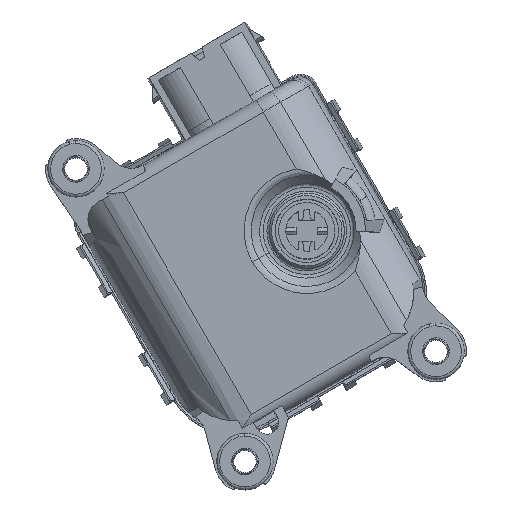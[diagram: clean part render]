
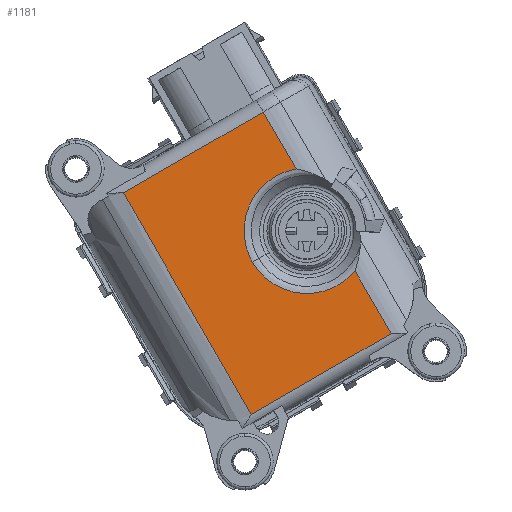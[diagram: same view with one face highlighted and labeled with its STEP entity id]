
A CAD part, front view. The second image highlights one B-rep face of the part: STEP entity #1181.
In plain terms, the highlighted planar face has unit normal (0, -1, 0.013) as drawn and (0, -1, 0) by its records, which use the part's own axes.
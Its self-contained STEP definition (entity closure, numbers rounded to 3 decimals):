
#1113=AXIS2_PLACEMENT_3D('Plane Axis2P3D',#1110,#1111,#1112) ;
#88=CARTESIAN_POINT('Vertex',(6.38,-0.5,-62.55)) ;
#110=CARTESIAN_POINT('Vertex',(40.812,-0.5,-62.55)) ;
#113=CARTESIAN_POINT('Line Origine',(6.361,-0.5,-62.55)) ;
#1046=CARTESIAN_POINT('Control Point',(40.812,-0.5,-8.05)) ;
#1047=CARTESIAN_POINT('Control Point',(40.812,-0.5,-18.95)) ;
#1048=CARTESIAN_POINT('Control Point',(40.812,-0.5,-29.85)) ;
#1049=CARTESIAN_POINT('Control Point',(40.812,-0.5,-40.75)) ;
#1050=CARTESIAN_POINT('Control Point',(40.812,-0.5,-51.65)) ;
#1051=CARTESIAN_POINT('Control Point',(40.812,-0.5,-62.55)) ;
#1052=CARTESIAN_POINT('Vertex',(40.812,-0.5,-8.05)) ;
#1110=CARTESIAN_POINT('Axis2P3D Location',(46.5,-0.5,-59.3)) ;
#1115=CARTESIAN_POINT('Line Origine',(23.596,-0.5,-8.05)) ;
#1119=CARTESIAN_POINT('Vertex',(6.38,-0.5,-8.05)) ;
#1122=CARTESIAN_POINT('Line Origine',(6.38,-0.5,-15.753)) ;
#1126=CARTESIAN_POINT('Vertex',(6.38,-0.5,-23.456)) ;
#1130=CARTESIAN_POINT('Control Point',(24.368,-0.5,-36.)) ;
#1131=CARTESIAN_POINT('Control Point',(24.367,-0.5,-34.567)) ;
#1132=CARTESIAN_POINT('Control Point',(24.176,-0.5,-33.134)) ;
#1133=CARTESIAN_POINT('Control Point',(23.792,-0.5,-31.735)) ;
#1134=CARTESIAN_POINT('Control Point',(22.659,-0.5,-29.075)) ;
#1135=CARTESIAN_POINT('Control Point',(20.864,-0.5,-26.807)) ;
#1136=CARTESIAN_POINT('Control Point',(19.819,-0.5,-25.801)) ;
#1137=CARTESIAN_POINT('Control Point',(17.487,-0.5,-24.093)) ;
#1138=CARTESIAN_POINT('Control Point',(14.787,-0.5,-23.059)) ;
#1139=CARTESIAN_POINT('Control Point',(13.376,-0.5,-22.727)) ;
#1140=CARTESIAN_POINT('Control Point',(11.089,-0.5,-22.506)) ;
#1141=CARTESIAN_POINT('Control Point',(8.82,-0.5,-22.771)) ;
#1142=CARTESIAN_POINT('Control Point',(7.988,-0.5,-22.935)) ;
#1143=CARTESIAN_POINT('Control Point',(7.172,-0.5,-23.165)) ;
#1144=CARTESIAN_POINT('Control Point',(6.38,-0.5,-23.456)) ;
#1145=CARTESIAN_POINT('Vertex',(24.368,-0.5,-36.)) ;
#1149=CARTESIAN_POINT('Control Point',(6.38,-0.5,-48.544)) ;
#1150=CARTESIAN_POINT('Control Point',(7.724,-0.5,-49.038)) ;
#1151=CARTESIAN_POINT('Control Point',(9.135,-0.5,-49.354)) ;
#1152=CARTESIAN_POINT('Control Point',(10.58,-0.5,-49.478)) ;
#1153=CARTESIAN_POINT('Control Point',(13.469,-0.5,-49.334)) ;
#1154=CARTESIAN_POINT('Control Point',(16.217,-0.5,-48.434)) ;
#1155=CARTESIAN_POINT('Control Point',(17.522,-0.5,-47.801)) ;
#1156=CARTESIAN_POINT('Control Point',(19.931,-0.5,-46.202)) ;
#1157=CARTESIAN_POINT('Control Point',(21.835,-0.5,-44.027)) ;
#1158=CARTESIAN_POINT('Control Point',(22.634,-0.5,-42.817)) ;
#1159=CARTESIAN_POINT('Control Point',(23.631,-0.5,-40.748)) ;
#1160=CARTESIAN_POINT('Control Point',(24.167,-0.5,-38.527)) ;
#1161=CARTESIAN_POINT('Control Point',(24.301,-0.5,-37.689)) ;
#1162=CARTESIAN_POINT('Control Point',(24.367,-0.5,-36.844)) ;
#1163=CARTESIAN_POINT('Control Point',(24.368,-0.5,-36.)) ;
#1164=CARTESIAN_POINT('Vertex',(6.38,-0.5,-48.544)) ;
#1167=CARTESIAN_POINT('Line Origine',(6.38,-0.5,-55.547)) ;
#114=DIRECTION('Vector Direction',(1.,0.,0.)) ;
#1111=DIRECTION('Axis2P3D Direction',(0.,1.,0.)) ;
#1112=DIRECTION('Axis2P3D XDirection',(0.,0.,1.)) ;
#1116=DIRECTION('Vector Direction',(-1.,0.,0.)) ;
#1123=DIRECTION('Vector Direction',(0.,0.,-1.)) ;
#1168=DIRECTION('Vector Direction',(0.,0.,-1.)) ;
#115=VECTOR('Line Direction',#114,1.) ;
#1117=VECTOR('Line Direction',#1116,1.) ;
#1124=VECTOR('Line Direction',#1123,1.) ;
#1169=VECTOR('Line Direction',#1168,1.) ;
#1173=ORIENTED_EDGE('',*,*,#1121,.T.) ;
#1174=ORIENTED_EDGE('',*,*,#1128,.T.) ;
#1175=ORIENTED_EDGE('',*,*,#1147,.F.) ;
#1176=ORIENTED_EDGE('',*,*,#1166,.F.) ;
#1177=ORIENTED_EDGE('',*,*,#1171,.T.) ;
#1178=ORIENTED_EDGE('',*,*,#117,.T.) ;
#1179=ORIENTED_EDGE('',*,*,#1054,.F.) ;
#1181=ADVANCED_FACE('Body.2',(#1180),#1114,.F.) ;
#1045=B_SPLINE_CURVE_WITH_KNOTS('',5,(#1046,#1047,#1048,#1049,#1050,#1051),.UNSPECIFIED.,.F.,.U.,(6,6),(3.,57.5),.UNSPECIFIED.) ;
#1129=B_SPLINE_CURVE_WITH_KNOTS('',5,(#1130,#1131,#1132,#1133,#1134,#1135,#1136,#1137,#1138,#1139,#1140,#1141,#1142,#1143,#1144),.UNSPECIFIED.,.F.,.U.,(6,3,3,3,6),(0.,10.557,21.116,31.667,37.888),.UNSPECIFIED.) ;
#1148=B_SPLINE_CURVE_WITH_KNOTS('',5,(#1149,#1150,#1151,#1152,#1153,#1154,#1155,#1156,#1157,#1158,#1159,#1160,#1161,#1162,#1163),.UNSPECIFIED.,.F.,.U.,(6,3,3,3,6),(0.,10.556,21.114,31.666,37.889),.UNSPECIFIED.) ;
#117=EDGE_CURVE('',#89,#111,#116,.T.) ;
#1054=EDGE_CURVE('',#1053,#111,#1045,.T.) ;
#1121=EDGE_CURVE('',#1053,#1120,#1118,.T.) ;
#1128=EDGE_CURVE('',#1120,#1127,#1125,.T.) ;
#1147=EDGE_CURVE('',#1146,#1127,#1129,.T.) ;
#1166=EDGE_CURVE('',#1165,#1146,#1148,.T.) ;
#1171=EDGE_CURVE('',#1165,#89,#1170,.T.) ;
#1172=EDGE_LOOP('',(#1173,#1174,#1175,#1176,#1177,#1178,#1179)) ;
#1180=FACE_OUTER_BOUND('',#1172,.T.) ;
#116=LINE('Line',#113,#115) ;
#1118=LINE('Line',#1115,#1117) ;
#1125=LINE('Line',#1122,#1124) ;
#1170=LINE('Line',#1167,#1169) ;
#1114=PLANE('Plane',#1113) ;
#89=VERTEX_POINT('',#88) ;
#111=VERTEX_POINT('',#110) ;
#1053=VERTEX_POINT('',#1052) ;
#1120=VERTEX_POINT('',#1119) ;
#1127=VERTEX_POINT('',#1126) ;
#1146=VERTEX_POINT('',#1145) ;
#1165=VERTEX_POINT('',#1164) ;
